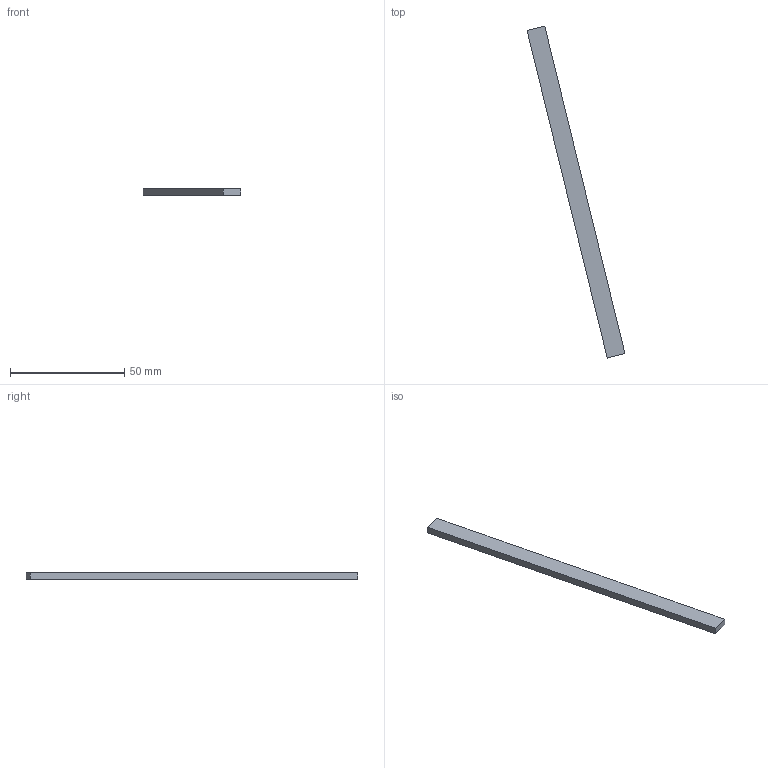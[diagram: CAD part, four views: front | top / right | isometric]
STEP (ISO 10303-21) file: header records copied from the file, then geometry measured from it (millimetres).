
FILE_DESCRIPTION(('Open CASCADE Model'),'2;1');
FILE_NAME('Open CASCADE Shape Model','2026-10-04T02:31:41',('Author'),( 'Open CASCADE'),'Open CASCADE STEP processor 8.0','Open CASCADE 8.0' ,'Unknown');
FILE_SCHEMA(('AUTOMOTIVE_DESIGN { 1 0 10303 214 1 1 1 1 }'));
Length unit declared in the file: millimetre
Products named in the file (1): Open CASCADE STEP translator 8.0 275
Bounding box: 42.77 x 144.99 x 3 mm (x, y, z)
Volume: 3535.3 mm3; surface area: 3288.7 mm2
Topology: 1 solids, 1 shells, 6 faces, 12 edges, 8 vertices
Faces by surface type: plane 6
Entity records: 322 total; most frequent: CARTESIAN_POINT 51, DIRECTION 50, LINE 36, VECTOR 36, ORIENTED_EDGE 24, PCURVE 24, DEFINITIONAL_REPRESENTATION 24, EDGE_CURVE 12
